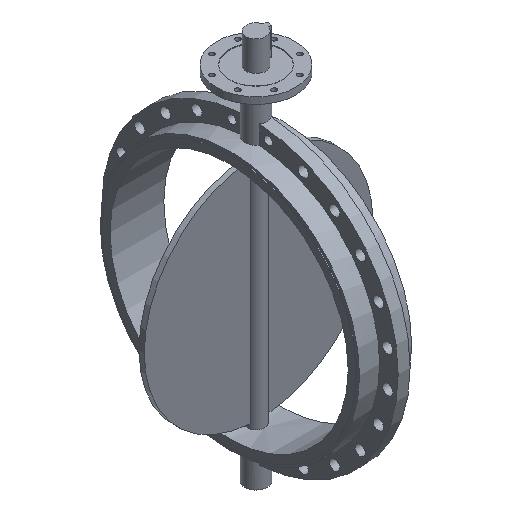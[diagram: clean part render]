
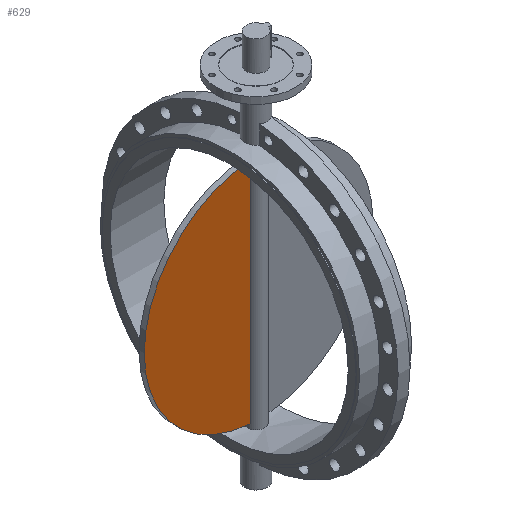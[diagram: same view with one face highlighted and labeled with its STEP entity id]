
A CAD part, isometric view. The second image highlights one B-rep face of the part: STEP entity #629.
In plain terms, the highlighted planar face has unit normal (0, -1, 0).
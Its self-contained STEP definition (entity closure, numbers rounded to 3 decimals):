
#629=ADVANCED_FACE('',(#1549),#1551,.T.);
#1549=FACE_BOUND('',#1550,.T.);
#1550=EDGE_LOOP('',(#2038,#2039));
#1551=PLANE('',#1552);
#1552=AXIS2_PLACEMENT_3D('',#1553,#1554,#1555);
#1553=CARTESIAN_POINT('',(0.,-10.,0.));
#1554=DIRECTION('',(0.,-1.,0.));
#1555=DIRECTION('',(0.,0.,1.));
#2038=ORIENTED_EDGE('',*,*,#2270,.T.);
#2039=ORIENTED_EDGE('',*,*,#2300,.T.);
#2270=EDGE_CURVE('',#2566,#2563,#2567,.F.);
#2300=EDGE_CURVE('',#2563,#2566,#2622,.T.);
#2563=VERTEX_POINT('',#3994);
#2566=VERTEX_POINT('',#4039);
#2567=LINE('',#4040,#4041);
#2622=CIRCLE('',#4215,432.35);
#3994=CARTESIAN_POINT('',(-30.923,-10.,431.243));
#4039=CARTESIAN_POINT('',(-30.923,-10.,-431.243));
#4040=CARTESIAN_POINT('',(-30.923,-10.,431.243));
#4041=VECTOR('',#4042,1.);
#4042=DIRECTION('',(0.,0.,-1.));
#4215=AXIS2_PLACEMENT_3D('',#4216,#4217,#4218);
#4216=CARTESIAN_POINT('',(0.,-10.,0.));
#4217=DIRECTION('',(0.,-1.,0.));
#4218=DIRECTION('',(-0.072,0.,0.997));
